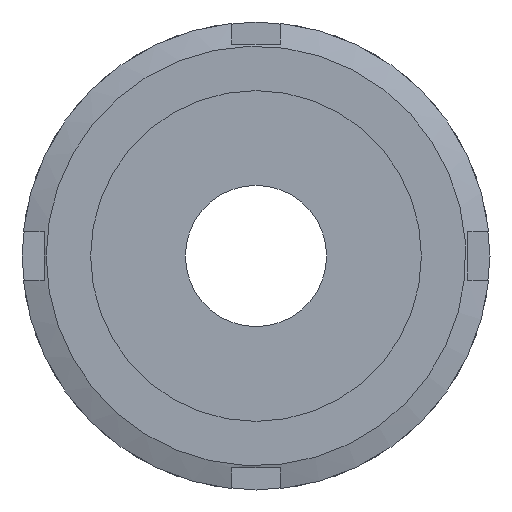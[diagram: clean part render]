
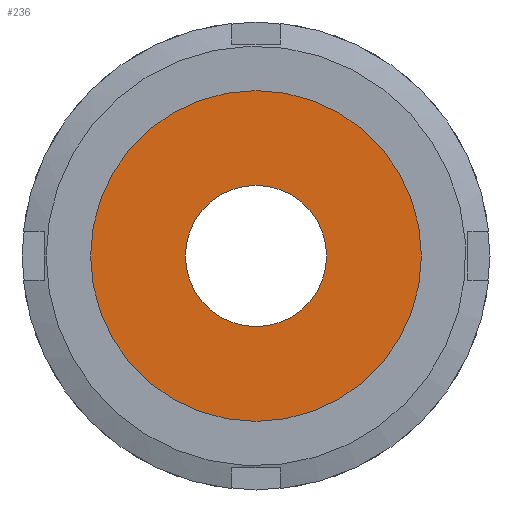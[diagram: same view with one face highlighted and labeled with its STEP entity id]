
A CAD part, left-side view. The second image highlights one B-rep face of the part: STEP entity #236.
In plain terms, the highlighted planar face has unit normal (-1, 0, 0) as drawn and (0, -1, 0) by its records, which use the part's own axes.
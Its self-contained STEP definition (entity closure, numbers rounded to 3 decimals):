
#236 = ADVANCED_FACE( '', ( #342, #343 ), #344, .T. );
#342 = FACE_OUTER_BOUND( '', #497, .T. );
#343 = FACE_BOUND( '', #498, .T. );
#344 = PLANE( '', #499 );
#497 = EDGE_LOOP( '', ( #795 ) );
#498 = EDGE_LOOP( '', ( #796 ) );
#499 = AXIS2_PLACEMENT_3D( '', #797, #798, #799 );
#795 = ORIENTED_EDGE( '', *, *, #1079, .T. );
#796 = ORIENTED_EDGE( '', *, *, #1080, .F. );
#797 = CARTESIAN_POINT( '', ( 8.75, 0., 0. ) );
#798 = DIRECTION( '', ( 0., -1., 0. ) );
#799 = DIRECTION( '', ( 0., 0., -1. ) );
#1079 = EDGE_CURVE( '', #1252, #1252, #1253, .T. );
#1080 = EDGE_CURVE( '', #1254, #1254, #1255, .T. );
#1252 = VERTEX_POINT( '', #1616 );
#1253 = CIRCLE( '', #1617, 20.5 );
#1254 = VERTEX_POINT( '', #1618 );
#1255 = CIRCLE( '', #1619, 8.75 );
#1616 = CARTESIAN_POINT( '', ( 0., 0., -20.5 ) );
#1617 = AXIS2_PLACEMENT_3D( '', #1863, #1864, #1865 );
#1618 = CARTESIAN_POINT( '', ( 0., 0., -8.75 ) );
#1619 = AXIS2_PLACEMENT_3D( '', #1866, #1867, #1868 );
#1863 = CARTESIAN_POINT( '', ( 0., 0., 0. ) );
#1864 = DIRECTION( '', ( 0., -1., 0. ) );
#1865 = DIRECTION( '', ( 0., 0., -1. ) );
#1866 = CARTESIAN_POINT( '', ( 0., 0., 0. ) );
#1867 = DIRECTION( '', ( 0., -1., 0. ) );
#1868 = DIRECTION( '', ( 0., 0., -1. ) );
